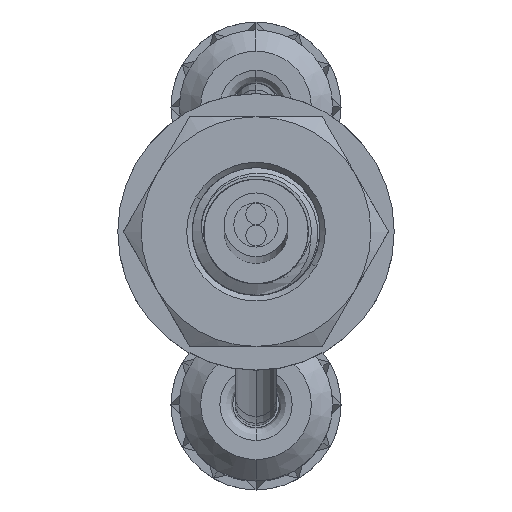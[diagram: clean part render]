
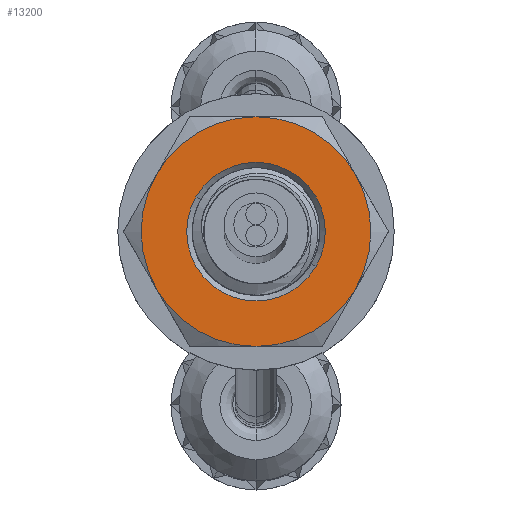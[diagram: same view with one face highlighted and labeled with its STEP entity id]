
A CAD part, top view. The second image highlights one B-rep face of the part: STEP entity #13200.
In plain terms, the highlighted planar face has unit normal (0, 0, 1).
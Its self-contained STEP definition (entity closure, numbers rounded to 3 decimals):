
#1277 = CIRCLE ( 'NONE', #11966, 2.7 ) ;
#1325 = CARTESIAN_POINT ( 'NONE',  ( -23.932, 13.858, 14. ) ) ;
#2226 = CARTESIAN_POINT ( 'NONE',  ( -23.005, 13.323, 14. ) ) ;
#2359 = ORIENTED_EDGE ( 'NONE', *, *, #18049, .T. ) ;
#2384 = CARTESIAN_POINT ( 'NONE',  ( -21.594, 12.508, 14. ) ) ;
#2456 = DIRECTION ( 'NONE',  ( 0., 0., 1. ) ) ;
#2472 = CIRCLE ( 'NONE', #6798, 2.7 ) ;
#2512 = AXIS2_PLACEMENT_3D ( 'NONE', #4897, #17978, #9218 ) ;
#3081 = CARTESIAN_POINT ( 'NONE',  ( -21.594, 9.808, 14. ) ) ;
#3797 = VERTEX_POINT ( 'NONE', #2226 ) ;
#3860 = DIRECTION ( 'NONE',  ( 0., 0., -1. ) ) ;
#4020 = AXIS2_PLACEMENT_3D ( 'NONE', #5824, #7084, #4427 ) ;
#4427 = DIRECTION ( 'NONE',  ( 0.866, -0.5, 0. ) ) ;
#4490 = CARTESIAN_POINT ( 'NONE',  ( -23.932, 11.158, 14. ) ) ;
#4651 = VERTEX_POINT ( 'NONE', #4490 ) ;
#4726 = AXIS2_PLACEMENT_3D ( 'NONE', #9660, #2456, #15503 ) ;
#4854 = CARTESIAN_POINT ( 'NONE',  ( -21.594, 12.508, 14. ) ) ;
#4897 = CARTESIAN_POINT ( 'NONE',  ( -21.594, 12.508, 14. ) ) ;
#5014 = CARTESIAN_POINT ( 'NONE',  ( -19.255, 11.158, 14. ) ) ;
#5824 = CARTESIAN_POINT ( 'NONE',  ( -21.594, 12.508, 14. ) ) ;
#5946 = EDGE_CURVE ( 'NONE', #7348, #16525, #7604, .T. ) ;
#6125 = FACE_OUTER_BOUND ( 'NONE', #6301, .T. ) ;
#6147 = VERTEX_POINT ( 'NONE', #5014 ) ;
#6164 = DIRECTION ( 'NONE',  ( 0.866, -0.5, 0. ) ) ;
#6223 = EDGE_CURVE ( 'NONE', #16991, #6147, #12164, .T. ) ;
#6301 = EDGE_LOOP ( 'NONE', ( #10335, #17948, #9767, #12310, #7550, #15875 ) ) ;
#6766 = VERTEX_POINT ( 'NONE', #1325 ) ;
#6787 = FACE_BOUND ( 'NONE', #13661, .T. ) ;
#6798 = AXIS2_PLACEMENT_3D ( 'NONE', #15864, #16044, #7376 ) ;
#7021 = AXIS2_PLACEMENT_3D ( 'NONE', #7703, #15102, #7894 ) ;
#7084 = DIRECTION ( 'NONE',  ( 0., 0., -1. ) ) ;
#7348 = VERTEX_POINT ( 'NONE', #18656 ) ;
#7376 = DIRECTION ( 'NONE',  ( 0.866, -0.5, 0. ) ) ;
#7550 = ORIENTED_EDGE ( 'NONE', *, *, #14789, .T. ) ;
#7604 = CIRCLE ( 'NONE', #8481, 2.7 ) ;
#7674 = PLANE ( 'NONE',  #2512 ) ;
#7703 = CARTESIAN_POINT ( 'NONE',  ( -21.594, 12.508, 14. ) ) ;
#7894 = DIRECTION ( 'NONE',  ( 0.866, -0.5, 0. ) ) ;
#7915 = DIRECTION ( 'NONE',  ( 0.866, -0.5, 0. ) ) ;
#8274 = EDGE_CURVE ( 'NONE', #3797, #14696, #11727, .T. ) ;
#8405 = CARTESIAN_POINT ( 'NONE',  ( -20.182, 11.693, 14. ) ) ;
#8481 = AXIS2_PLACEMENT_3D ( 'NONE', #14951, #17908, #6164 ) ;
#8545 = AXIS2_PLACEMENT_3D ( 'NONE', #2384, #15491, #7915 ) ;
#8774 = ORIENTED_EDGE ( 'NONE', *, *, #8274, .T. ) ;
#9146 = CARTESIAN_POINT ( 'NONE',  ( -21.594, 15.208, 14. ) ) ;
#9218 = DIRECTION ( 'NONE',  ( 0.866, -0.5, 0. ) ) ;
#9244 = DIRECTION ( 'NONE',  ( 0.866, -0.5, 0. ) ) ;
#9604 = CARTESIAN_POINT ( 'NONE',  ( -21.594, 12.508, 14. ) ) ;
#9660 = CARTESIAN_POINT ( 'NONE',  ( -21.594, 12.508, 14. ) ) ;
#9767 = ORIENTED_EDGE ( 'NONE', *, *, #5946, .T. ) ;
#10335 = ORIENTED_EDGE ( 'NONE', *, *, #6223, .T. ) ;
#11727 = CIRCLE ( 'NONE', #4020, 1.63 ) ;
#11966 = AXIS2_PLACEMENT_3D ( 'NONE', #4854, #18000, #9244 ) ;
#12164 = CIRCLE ( 'NONE', #4726, 2.7 ) ;
#12310 = ORIENTED_EDGE ( 'NONE', *, *, #14384, .T. ) ;
#12862 = CIRCLE ( 'NONE', #13456, 1.63 ) ;
#12913 = CIRCLE ( 'NONE', #8545, 2.7 ) ;
#13200 = ADVANCED_FACE ( 'NONE', ( #6787, #6125 ), #7674, .T. ) ;
#13456 = AXIS2_PLACEMENT_3D ( 'NONE', #9604, #3860, #15579 ) ;
#13661 = EDGE_LOOP ( 'NONE', ( #2359, #8774 ) ) ;
#14384 = EDGE_CURVE ( 'NONE', #16525, #6766, #16946, .T. ) ;
#14696 = VERTEX_POINT ( 'NONE', #8405 ) ;
#14789 = EDGE_CURVE ( 'NONE', #6766, #4651, #2472, .T. ) ;
#14951 = CARTESIAN_POINT ( 'NONE',  ( -21.594, 12.508, 14. ) ) ;
#15102 = DIRECTION ( 'NONE',  ( 0., 0., 1. ) ) ;
#15491 = DIRECTION ( 'NONE',  ( 0., 0., 1. ) ) ;
#15503 = DIRECTION ( 'NONE',  ( 0.866, -0.5, 0. ) ) ;
#15579 = DIRECTION ( 'NONE',  ( 0.866, -0.5, 0. ) ) ;
#15864 = CARTESIAN_POINT ( 'NONE',  ( -21.594, 12.508, 14. ) ) ;
#15875 = ORIENTED_EDGE ( 'NONE', *, *, #17196, .T. ) ;
#16044 = DIRECTION ( 'NONE',  ( 0., 0., 1. ) ) ;
#16525 = VERTEX_POINT ( 'NONE', #9146 ) ;
#16713 = EDGE_CURVE ( 'NONE', #6147, #7348, #12913, .T. ) ;
#16946 = CIRCLE ( 'NONE', #7021, 2.7 ) ;
#16991 = VERTEX_POINT ( 'NONE', #3081 ) ;
#17196 = EDGE_CURVE ( 'NONE', #4651, #16991, #1277, .T. ) ;
#17908 = DIRECTION ( 'NONE',  ( 0., 0., 1. ) ) ;
#17948 = ORIENTED_EDGE ( 'NONE', *, *, #16713, .T. ) ;
#17978 = DIRECTION ( 'NONE',  ( 0., 0., 1. ) ) ;
#18000 = DIRECTION ( 'NONE',  ( 0., 0., 1. ) ) ;
#18049 = EDGE_CURVE ( 'NONE', #14696, #3797, #12862, .T. ) ;
#18656 = CARTESIAN_POINT ( 'NONE',  ( -19.255, 13.858, 14. ) ) ;
